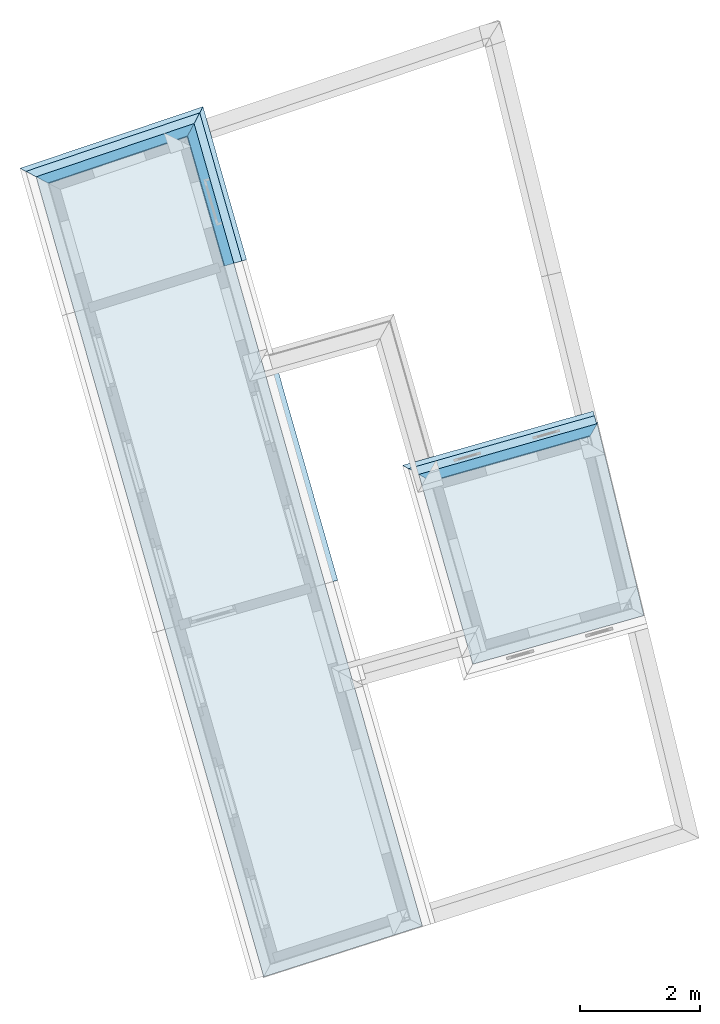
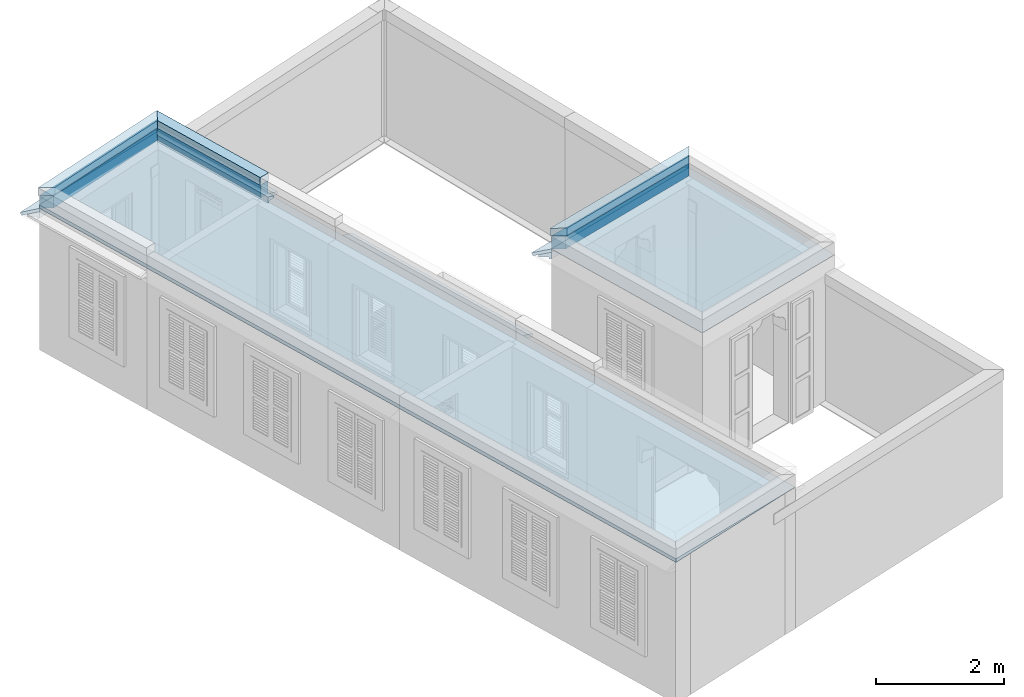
# One storey, part 13 of 13: 14 roofs.
"""IFC4 building model written with IfcOpenShell, lengths in metres."""

import ifcopenshell
import ifcopenshell.guid

model = None  # the IFC model being written
_history = None  # IfcOwnerHistory: only IFC2X3 demands one
_inside = {}  # id of a spatial element -> (the spatial element, [elements in it])
_under = {}  # id of a project, library or spatial element -> (it, [spatial elements below it])
_declared = {}  # id of a project -> (the project, [libraries it declares])
_typed = {}  # id of a type object -> (the type object, [elements of that type])
_made_of = {}  # id of a material, layer set ... -> (it, [elements and type objects made of it])


def new_model(schema):
    """Start an empty IFC model of exactly this schema.

    Asked for "IFC4X3", IfcOpenShell would pick the latest addendum, in which some entities
    have other attributes; the version numbers below select the first issue.
    IFC2X3 requires an IfcOwnerHistory on every rooted entity: one is made here for all.
    """
    global model, _history
    if schema == "IFC4X3":
        model = ifcopenshell.file(schema_version=(4, 3, 0, 0))
    else:
        model = ifcopenshell.file(schema=schema)
    _inside.clear()
    _under.clear()
    _declared.clear()
    _typed.clear()
    _made_of.clear()
    _history = None
    if model.schema == "IFC2X3":
        org = make("IfcOrganization", Name="unknown")
        user = make(
            "IfcPersonAndOrganization",
            ThePerson=make("IfcPerson", FamilyName="unknown"),
            TheOrganization=org,
        )
        app = make(
            "IfcApplication",
            ApplicationDeveloper=org,
            Version="unknown",
            ApplicationFullName="unknown",
            ApplicationIdentifier="unknown",
        )
        _history = make(
            "IfcOwnerHistory",
            OwningUser=user,
            OwningApplication=app,
            ChangeAction="ADDED",
            CreationDate=0,
        )
    return model


def make(cls, **values):
    """One entity of the class cls with the attributes given. An attribute that is None is left unset."""
    return model.create_entity(
        cls, **{name: value for name, value in values.items() if value is not None}
    )


def rooted(cls, **values):
    """An entity with a GlobalId (a new one), such as an element, a storey or a relation."""
    return make(cls, GlobalId=ifcopenshell.guid.new(), OwnerHistory=_history, **values)


def si_unit(unit_type, name, prefix=None):
    """IfcSIUnit, for example si_unit("LENGTHUNIT", "METRE", prefix="MILLI")."""
    return make("IfcSIUnit", UnitType=unit_type, Prefix=prefix, Name=name)


def assignment(units):
    """IfcUnitAssignment: the units of a project."""
    return None if units is None else make("IfcUnitAssignment", Units=units)


def point(xyz):
    """IfcCartesianPoint."""
    return None if xyz is None else make("IfcCartesianPoint", Coordinates=xyz)


def direction(xyz):
    """IfcDirection."""
    return None if xyz is None else make("IfcDirection", DirectionRatios=xyz)


def frame(location, z_axis=None, x_axis=None):
    """IfcAxis2Placement3D, a coordinate frame: its origin and axes. An axis left out is left unset."""
    return make(
        "IfcAxis2Placement3D",
        Location=point(location),
        Axis=direction(z_axis),
        RefDirection=direction(x_axis),
    )


def origin():
    """The frame at (0, 0, 0) with its axes left unset."""
    return frame((0.0, 0.0, 0.0))


def origin_with_axes():
    """The frame at (0, 0, 0) with the z axis (0, 0, 1) and the x axis (1, 0, 0) written out."""
    return frame((0.0, 0.0, 0.0), z_axis=(0.0, 0.0, 1.0), x_axis=(1.0, 0.0, 0.0))


def place(relative_to, where):
    """IfcLocalPlacement: puts the frame where relative to a parent placement (None: the world)."""
    return make(
        "IfcLocalPlacement", PlacementRelTo=relative_to, RelativePlacement=where
    )


def context(
    kind, dimensions, precision=None, world=None, true_north=None, identifier=None
):
    """IfcGeometricRepresentationContext, for example the 3D "Model" context."""
    return make(
        "IfcGeometricRepresentationContext",
        ContextIdentifier=identifier,
        ContextType=kind,
        CoordinateSpaceDimension=dimensions,
        Precision=precision,
        WorldCoordinateSystem=world,
        TrueNorth=true_north,
    )


def subcontext(parent, identifier, kind, view, scale=None):
    """IfcGeometricRepresentationSubContext, for example "Body" below "Model"."""
    return make(
        "IfcGeometricRepresentationSubContext",
        ContextIdentifier=identifier,
        ContextType=kind,
        ParentContext=parent,
        TargetScale=scale,
        TargetView=view,
    )


def project(units=None, contexts=None):
    """IfcProject with its units and contexts."""
    return rooted(
        "IfcProject",
        Name="project",
        RepresentationContexts=contexts,
        UnitsInContext=assignment(units),
    )


def spatial(cls, under=None, at=None, **own):
    """A site, building, storey or space (cls), placed at a placement, below another one or the project."""
    s = rooted(cls, ObjectPlacement=at, **own)
    if under is not None:
        _under.setdefault(under.id(), (under, []))[1].append(s)
    return s


def polyline(points):
    """IfcPolyline through the points."""
    return make("IfcPolyline", Points=[point(p) for p in points])


def outline(outer, holes=None, kind="AREA"):
    """IfcArbitraryClosedProfileDef: a profile drawn as a closed curve; with holes, ...WithVoids."""
    if holes is None:
        return make("IfcArbitraryClosedProfileDef", ProfileType=kind, OuterCurve=outer)
    return make(
        "IfcArbitraryProfileDefWithVoids",
        ProfileType=kind,
        OuterCurve=outer,
        InnerCurves=holes,
    )


def extrude(swept, where, along, depth):
    """IfcExtrudedAreaSolid: the profile swept, set in the frame where, extruded along a direction by depth."""
    return make(
        "IfcExtrudedAreaSolid",
        SweptArea=swept,
        Position=where,
        ExtrudedDirection=direction(along),
        Depth=depth,
    )


def boolean(op, a, b):
    """IfcBooleanResult of two solids."""
    return make("IfcBooleanResult", Operator=op, FirstOperand=a, SecondOperand=b)


def clip(a, b, op="DIFFERENCE"):
    """IfcBooleanClippingResult: the solid a cut by the half space b."""
    return make(
        "IfcBooleanClippingResult", Operator=op, FirstOperand=a, SecondOperand=b
    )


def halfspace(plane, agree):
    """IfcHalfSpaceSolid: all space on one side of the plane z = 0 of the frame plane."""
    return make(
        "IfcHalfSpaceSolid",
        BaseSurface=make("IfcPlane", Position=plane),
        AgreementFlag=agree,
    )


def faces_of(points, faces, orient=None, outer=None):
    """IfcFace entities. A face is a list of loops; a loop is a list of indices into points, from 0.

    orient and outer hold one flag for each loop. By default every Orientation is true, the
    first loop of a face is its IfcFaceOuterBound and the others are IfcFaceBound.
    """
    made = []
    for i, loops in enumerate(faces):
        bounds = []
        for j, loop in enumerate(loops):
            is_outer = j == 0 if outer is None else outer[i][j]
            bounds.append(
                make(
                    "IfcFaceOuterBound" if is_outer else "IfcFaceBound",
                    Bound=make("IfcPolyLoop", Polygon=[points[k] for k in loop]),
                    Orientation=True if orient is None else orient[i][j],
                )
            )
        made.append(make("IfcFace", Bounds=bounds))
    return made


def faceted_brep(points, faces, orient=None, outer=None, voids=None):
    """IfcFacetedBrep: a solid bounded by flat faces; with voids (closed shells), ...WithVoids."""
    shared = [point(p) for p in points]
    hull = make("IfcClosedShell", CfsFaces=faces_of(shared, faces, orient, outer))
    if voids is None:
        return make("IfcFacetedBrep", Outer=hull)
    return make(
        "IfcFacetedBrepWithVoids",
        Outer=hull,
        Voids=[
            make(cls, CfsFaces=faces_of(shared, fs, o, b)) for cls, fs, o, b in voids
        ],
    )


def shape(context_of_items, identifier, shape_type, items):
    """IfcShapeRepresentation: the items that make up one representation, for example the "Body"."""
    return make(
        "IfcShapeRepresentation",
        ContextOfItems=context_of_items,
        RepresentationIdentifier=identifier,
        RepresentationType=shape_type,
        Items=items,
    )


def material_profile(
    of_material, cross_section, Name=None, Category=None, Priority=None
):
    """IfcMaterialProfile: a cross section and its material."""
    return make(
        "IfcMaterialProfile",
        Name=Name,
        Material=of_material,
        Profile=cross_section,
        Priority=Priority,
        Category=Category,
    )


def profile_set(profiles, Name=None, composite=None):
    """IfcMaterialProfileSet."""
    return make(
        "IfcMaterialProfileSet",
        Name=Name,
        MaterialProfiles=profiles,
        CompositeProfile=composite,
    )


def profile_usage(for_profile_set, cardinal=None, extent=None):
    """IfcMaterialProfileSetUsage: how a profile set lies along its element."""
    return make(
        "IfcMaterialProfileSetUsage",
        ForProfileSet=for_profile_set,
        CardinalPoint=cardinal,
        ReferenceExtent=extent,
    )


def made_of(thing, what):
    """Note that an element or type object is made of a material, layer set ...; save() writes the relation."""
    if what is not None:
        _made_of.setdefault(what.id(), (what, []))[1].append(thing)
    return thing


def type_object(cls, material=None, **own):
    """A type object (cls), such as IfcWallType, which elements share."""
    return made_of(rooted(cls, **own), material)


def element(
    cls,
    number,
    at=None,
    inside=None,
    cuts=None,
    type_object=None,
    material=None,
    context=None,
    identifier="Body",
    shape_type=None,
    held_by="IfcProductDefinitionShape",
    body=None,
    shapes=None,
    **own,
):
    """One element of the class cls, such as IfcWall. Its Tag is "e" and its number.

    at: its placement. inside: the storey or other place that contains it. cuts: it is an
    opening in that element (IfcRelVoidsElement). A single representation is given by context,
    identifier, shape_type and body (its items); several are given by shapes. held_by: the class
    of the entity that holds the representations. save() writes the other relations.
    """
    e = rooted(cls, Tag="e%d" % number, ObjectPlacement=at, **own)
    if body is not None:
        shapes = [shape(context, identifier, shape_type, body)]
    if shapes is not None:
        e.Representation = make(held_by, Representations=shapes)
    if inside is not None:
        _inside.setdefault(inside.id(), (inside, []))[1].append(e)
    if cuts is not None:
        rooted(
            "IfcRelVoidsElement", RelatingBuildingElement=cuts, RelatedOpeningElement=e
        )
    if type_object is not None:
        _typed.setdefault(type_object.id(), (type_object, []))[1].append(e)
    return made_of(e, material)


def aggregate(whole, parts):
    """IfcRelAggregates: a whole, such as a stair, and the parts it consists of."""
    return rooted("IfcRelAggregates", RelatingObject=whole, RelatedObjects=parts)


def save(model, path):
    """Write the relations noted so far, then the file.

    IfcRelAggregates (storeys below a building ...), IfcRelContainedInSpatialStructure (elements
    in a storey), IfcRelDefinesByType, IfcRelAssociatesMaterial and IfcRelDeclares: one each for
    every whole, place, type object, material and project.
    """
    for whole, parts in _under.values():
        aggregate(whole, parts)
    for where, things in _inside.values():
        rooted(
            "IfcRelContainedInSpatialStructure",
            RelatedElements=things,
            RelatingStructure=where,
        )
    for kind, things in _typed.values():
        rooted("IfcRelDefinesByType", RelatedObjects=things, RelatingType=kind)
    for what, things in _made_of.values():
        rooted("IfcRelAssociatesMaterial", RelatedObjects=things, RelatingMaterial=what)
    for by, libraries in _declared.values():
        rooted("IfcRelDeclares", RelatingContext=by, RelatedDefinitions=libraries)
    model.write(path)


model = new_model("IFC4")

# Units and contexts
model_context = context("Model", 3, world=origin_with_axes())
body_context = subcontext(model_context, "Body", "Model", "MODEL_VIEW")
ifc_project = project(units=[si_unit("PLANEANGLEUNIT", "RADIAN"), si_unit("MASSUNIT", "GRAM", prefix="KILO"), si_unit("FORCEUNIT", "NEWTON", prefix="KILO"), si_unit("LENGTHUNIT", "METRE"), si_unit("AREAUNIT", "SQUARE_METRE"), si_unit("VOLUMEUNIT", "CUBIC_METRE")], contexts=[model_context, model_context])

# Site, building, storey
site_placement = place(None, origin_with_axes())
site = spatial("IfcSite", under=ifc_project, at=site_placement, Name="Site plot-3", CompositionType="ELEMENT")
building_placement = place(None, origin_with_axes())
building = spatial("IfcBuilding", under=site, at=building_placement, Name="Building plot-3", CompositionType="ELEMENT")
storey_placement = place(None, frame((0.0, 0.0, 3.3), z_axis=(0.0, 0.0, 1.0), x_axis=(1.0, 0.0, 0.0)))
storey = spatial("IfcBuildingStorey", under=building, at=storey_placement, Name="plot-3 1", CompositionType="ELEMENT", Elevation=3.3)

# Roofs
ifc_material_profile_1 = material_profile(None, outline(polyline([(0.25, 0.0), (0.25, 0.245), (0.09, 0.245), (0.09, 0.0), (0.25, 0.0)])))
ifc_profile_set_1 = profile_set([ifc_material_profile_1])
ifc_profile_usage_1 = profile_usage(ifc_profile_set_1)
roof_type_1 = type_object("IfcRoofType", Name="roofline_0", PredefinedType="FREEFORM", material=ifc_profile_set_1)
roof_1_placement = place(storey_placement, frame((8.7502441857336, 29.7352607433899, 2.7), z_axis=(0.273606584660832, -0.961841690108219, 0.0), x_axis=(0.961841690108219, 0.273606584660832, 0.0)))
element("IfcRoof", 1, at=roof_1_placement, inside=storey, type_object=roof_type_1, material=ifc_profile_usage_1, Name="roofline_0", context=body_context, shape_type="Clipping", body=[
    clip(clip(extrude(outline(polyline([(0.25, 0.0), (0.25, 0.245), (0.09, 0.245), (0.09, 0.0), (0.25, 0.0)])), origin_with_axes(), (0.0, 0.0, 1.0), 4.16007949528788), halfspace(frame((0.0, 0.0, 3.16007949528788), z_axis=(-1.871297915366e-14, 0.0, -1.0), x_axis=(0.0, 1.0, 0.0)), True)), halfspace(frame((0.0, 0.0, 1.0), z_axis=(-0.72388005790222, 0.0, -0.689925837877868), x_axis=(0.0, 1.0, 0.0)), False)),
])
ifc_profile_usage_2 = profile_usage(ifc_profile_set_1)
roof_2_placement = place(storey_placement, frame((5.91626355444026, 27.7257575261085, 2.7), z_axis=(0.947598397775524, 0.319464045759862, 0.0), x_axis=(-0.319464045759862, 0.947598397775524, 0.0)))
element("IfcRoof", 2, at=roof_2_placement, inside=storey, type_object=roof_type_1, material=ifc_profile_usage_2, Name="roofline_0", context=body_context, shape_type="Clipping", body=[
    clip(clip(extrude(outline(polyline([(0.25, 0.0), (0.25, 0.245), (0.09, 0.245), (0.09, 0.0), (0.25, 0.0)])), origin_with_axes(), (0.0, 0.0, 1.0), 4.27943485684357), halfspace(frame((0.0, 0.0, 3.27943485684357), z_axis=(0.723880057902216, 0.0, -0.689925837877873), x_axis=(0.0, 1.0, 0.0)), True)), halfspace(frame((0.0, 0.0, 1.0), z_axis=(-0.68992583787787, 0.0, -0.723880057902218), x_axis=(0.0, 1.0, 0.0)), False)),
])
ifc_material_profile_2 = material_profile(None, outline(polyline([(0.265, 0.245), (0.265, 0.395), (0.075, 0.395), (0.075, 0.245), (0.265, 0.245)])))
ifc_profile_set_2 = profile_set([ifc_material_profile_2])
ifc_profile_usage_3 = profile_usage(ifc_profile_set_2)
roof_type_2 = type_object("IfcRoofType", Name="roofline_1", PredefinedType="FREEFORM", material=ifc_profile_set_2)
roof_3_placement = place(storey_placement, frame((8.7502441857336, 29.7352607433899, 2.7), z_axis=(0.273606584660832, -0.961841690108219, 0.0), x_axis=(0.961841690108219, 0.273606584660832, 0.0)))
element("IfcRoof", 3, at=roof_3_placement, inside=storey, type_object=roof_type_2, material=ifc_profile_usage_3, Name="roofline_1", context=body_context, shape_type="Clipping", body=[
    clip(clip(extrude(outline(polyline([(0.265, 0.245), (0.265, 0.395), (0.075, 0.395), (0.075, 0.245), (0.265, 0.245)])), origin_with_axes(), (0.0, 0.0, 1.0), 4.16007949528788), halfspace(frame((0.0, 0.0, 3.16007949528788), z_axis=(-1.871297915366e-14, 0.0, -1.0), x_axis=(0.0, 1.0, 0.0)), True)), halfspace(frame((0.0, 0.0, 1.0), z_axis=(-0.72388005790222, 0.0, -0.689925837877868), x_axis=(0.0, 1.0, 0.0)), False)),
])
ifc_profile_usage_4 = profile_usage(ifc_profile_set_2)
roof_4_placement = place(storey_placement, frame((5.91626355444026, 27.7257575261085, 2.7), z_axis=(0.947598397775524, 0.319464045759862, 0.0), x_axis=(-0.319464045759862, 0.947598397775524, 0.0)))
element("IfcRoof", 4, at=roof_4_placement, inside=storey, type_object=roof_type_2, material=ifc_profile_usage_4, Name="roofline_1", context=body_context, shape_type="Clipping", body=[
    clip(clip(extrude(outline(polyline([(0.265, 0.245), (0.265, 0.395), (0.075, 0.395), (0.075, 0.245), (0.265, 0.245)])), origin_with_axes(), (0.0, 0.0, 1.0), 4.27943485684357), halfspace(frame((0.0, 0.0, 3.27943485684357), z_axis=(0.723880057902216, 0.0, -0.689925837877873), x_axis=(0.0, 1.0, 0.0)), True)), halfspace(frame((0.0, 0.0, 1.0), z_axis=(-0.68992583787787, 0.0, -0.723880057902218), x_axis=(0.0, 1.0, 0.0)), False)),
])
ifc_material_profile_3 = material_profile(None, outline(polyline([(0.25, 0.0), (0.25, 0.245), (0.09, 0.245), (0.09, 0.0), (0.25, 0.0)])))
ifc_profile_set_3 = profile_set([ifc_material_profile_3])
ifc_profile_usage_5 = profile_usage(ifc_profile_set_3)
roof_type_3 = type_object("IfcRoofType", Name="roofline_0", PredefinedType="FREEFORM", material=ifc_profile_set_3)
roof_5_placement = place(storey_placement, frame((12.2864732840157, 22.796996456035, 2.7), z_axis=(0.961841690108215, 0.273606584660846, 0.0), x_axis=(-0.273606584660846, 0.961841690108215, 0.0)))
element("IfcRoof", 5, at=roof_5_placement, inside=storey, type_object=roof_type_3, material=ifc_profile_usage_5, Name="roofline_0", context=body_context, shape_type="Clipping", body=[
    clip(clip(extrude(outline(polyline([(0.25, 0.0), (0.25, 0.245), (0.09, 0.245), (0.09, 0.0), (0.25, 0.0)])), origin_with_axes(), (0.0, 0.0, 1.0), 4.58528096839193), halfspace(frame((0.0, 0.0, 3.58528096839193), z_axis=(0.720505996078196, 0.0, -0.693448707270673), x_axis=(0.0, 1.0, 0.0)), True)), halfspace(frame((0.0, 0.0, 1.0), z_axis=(-0.707106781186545, 0.0, -0.70710678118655), x_axis=(0.0, 1.0, 0.0)), False)),
])
ifc_material_profile_4 = material_profile(None, outline(polyline([(0.265, 0.245), (0.265, 0.395), (0.075, 0.395), (0.075, 0.245), (0.265, 0.245)])))
ifc_profile_set_4 = profile_set([ifc_material_profile_4])
ifc_profile_usage_6 = profile_usage(ifc_profile_set_4)
roof_type_4 = type_object("IfcRoofType", Name="roofline_1", PredefinedType="FREEFORM", material=ifc_profile_set_4)
roof_6_placement = place(storey_placement, frame((12.2864732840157, 22.796996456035, 2.7), z_axis=(0.961841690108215, 0.273606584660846, 0.0), x_axis=(-0.273606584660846, 0.961841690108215, 0.0)))
element("IfcRoof", 6, at=roof_6_placement, inside=storey, type_object=roof_type_4, material=ifc_profile_usage_6, Name="roofline_1", context=body_context, shape_type="Clipping", body=[
    clip(clip(extrude(outline(polyline([(0.265, 0.245), (0.265, 0.395), (0.075, 0.395), (0.075, 0.245), (0.265, 0.245)])), origin_with_axes(), (0.0, 0.0, 1.0), 4.58528096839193), halfspace(frame((0.0, 0.0, 3.58528096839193), z_axis=(0.720505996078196, 0.0, -0.693448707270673), x_axis=(0.0, 1.0, 0.0)), True)), halfspace(frame((0.0, 0.0, 1.0), z_axis=(-0.707106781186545, 0.0, -0.70710678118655), x_axis=(0.0, 1.0, 0.0)), False)),
])
ifc_material_profile_5 = material_profile(None, outline(polyline([(0.25, -0.19), (0.275, -0.19), (0.275, -0.15), (0.39, -0.15), (0.39, -0.107509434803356), (0.25, -0.0629639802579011), (0.25, -0.19)])))
ifc_profile_set_5 = profile_set([ifc_material_profile_5])
ifc_profile_usage_7 = profile_usage(ifc_profile_set_5)
roof_type_5 = type_object("IfcRoofType", Name="eaves_0", PredefinedType="FREEFORM", material=ifc_profile_set_5)
roof_7_placement = place(storey_placement, frame((12.2864732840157, 22.796996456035, 2.7), z_axis=(0.961841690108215, 0.273606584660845, 0.0), x_axis=(-0.273606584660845, 0.961841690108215, 0.0)))
element("IfcRoof", 7, at=roof_7_placement, inside=storey, type_object=roof_type_5, material=ifc_profile_usage_7, Name="eaves_0", context=body_context, shape_type="Clipping", body=[
    clip(clip(extrude(outline(polyline([(0.25, -0.19), (0.275, -0.19), (0.275, -0.15), (0.39, -0.15), (0.39, -0.107509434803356), (0.25, -0.0629639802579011), (0.25, -0.19)])), origin_with_axes(), (0.0, 0.0, 1.0), 4.83528096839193), halfspace(frame((0.0, 0.0, 3.83528096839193), z_axis=(-6.12323399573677e-17, 0.0, -1.0), x_axis=(0.0, 1.0, 0.0)), True)), halfspace(frame((0.0, 0.0, 1.0), z_axis=(-0.707106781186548, 0.0, -0.707106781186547), x_axis=(0.0, 1.0, 0.0)), False)),
])
ifc_material_profile_6 = material_profile(None, outline(polyline([(0.25, -0.0629639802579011), (0.451807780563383, -0.127175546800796), (0.47, -0.07), (0.25, 0.0), (0.25, -0.0629639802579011)])))
ifc_profile_set_6 = profile_set([ifc_material_profile_6])
ifc_profile_usage_8 = profile_usage(ifc_profile_set_6)
roof_type_6 = type_object("IfcRoofType", Name="eaves_1", PredefinedType="FREEFORM", material=ifc_profile_set_6)
roof_8_placement = place(storey_placement, frame((12.2864732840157, 22.796996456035, 2.7), z_axis=(0.961841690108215, 0.273606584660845, 0.0), x_axis=(-0.273606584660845, 0.961841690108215, 0.0)))
element("IfcRoof", 8, at=roof_8_placement, inside=storey, type_object=roof_type_6, material=ifc_profile_usage_8, Name="eaves_1", context=body_context, shape_type="Clipping", body=[
    clip(clip(extrude(outline(polyline([(0.25, -0.0629639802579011), (0.451807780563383, -0.127175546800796), (0.47, -0.07), (0.25, 0.0), (0.25, -0.0629639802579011)])), origin_with_axes(), (0.0, 0.0, 1.0), 4.83528096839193), halfspace(frame((0.0, 0.0, 3.83528096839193), z_axis=(-6.12323399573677e-17, 0.0, -1.0), x_axis=(0.0, 1.0, 0.0)), True)), halfspace(frame((0.0, 0.0, 1.0), z_axis=(-0.707106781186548, 0.0, -0.707106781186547), x_axis=(0.0, 1.0, 0.0)), False)),
])
ifc_material_profile_7 = material_profile(None, outline(polyline([(0.25, -0.19), (0.275, -0.19), (0.275, -0.15), (0.39, -0.15), (0.39, -0.107509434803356), (0.25, -0.0629639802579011), (0.25, -0.19)])))
ifc_profile_set_7 = profile_set([ifc_material_profile_7])
ifc_profile_usage_9 = profile_usage(ifc_profile_set_7)
roof_type_7 = type_object("IfcRoofType", Name="eaves_0", PredefinedType="FREEFORM", material=ifc_profile_set_7)
roof_9_placement = place(storey_placement, frame((8.7502441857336, 29.7352607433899, 2.7), z_axis=(0.273606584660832, -0.961841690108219, 0.0), x_axis=(0.961841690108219, 0.273606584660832, 0.0)))
element("IfcRoof", 9, at=roof_9_placement, inside=storey, type_object=roof_type_7, material=ifc_profile_usage_9, Name="eaves_0", context=body_context, shape_type="Clipping", body=[
    clip(clip(extrude(outline(polyline([(0.25, -0.19), (0.275, -0.19), (0.275, -0.15), (0.39, -0.15), (0.39, -0.107509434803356), (0.25, -0.0629639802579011), (0.25, -0.19)])), origin_with_axes(), (0.0, 0.0, 1.0), 4.16007949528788), halfspace(frame((0.0, 0.0, 3.16007949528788), z_axis=(-1.871297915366e-14, 0.0, -1.0), x_axis=(0.0, 1.0, 0.0)), True)), halfspace(frame((0.0, 0.0, 1.0), z_axis=(-0.72388005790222, 0.0, -0.689925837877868), x_axis=(0.0, 1.0, 0.0)), False)),
])
ifc_profile_usage_10 = profile_usage(ifc_profile_set_7)
roof_10_placement = place(storey_placement, frame((5.91626355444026, 27.7257575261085, 2.7), z_axis=(0.947598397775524, 0.319464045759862, 0.0), x_axis=(-0.319464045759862, 0.947598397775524, 0.0)))
element("IfcRoof", 10, at=roof_10_placement, inside=storey, type_object=roof_type_7, material=ifc_profile_usage_10, Name="eaves_0", context=body_context, shape_type="Clipping", body=[
    clip(clip(extrude(outline(polyline([(0.25, -0.19), (0.275, -0.19), (0.275, -0.15), (0.39, -0.15), (0.39, -0.107509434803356), (0.25, -0.0629639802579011), (0.25, -0.19)])), origin_with_axes(), (0.0, 0.0, 1.0), 4.27943485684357), halfspace(frame((0.0, 0.0, 3.27943485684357), z_axis=(0.723880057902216, 0.0, -0.689925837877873), x_axis=(0.0, 1.0, 0.0)), True)), halfspace(frame((0.0, 0.0, 1.0), z_axis=(-0.68992583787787, 0.0, -0.723880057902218), x_axis=(0.0, 1.0, 0.0)), False)),
])
ifc_material_profile_8 = material_profile(None, outline(polyline([(0.25, -0.0629639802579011), (0.451807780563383, -0.127175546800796), (0.47, -0.07), (0.25, 0.0), (0.25, -0.0629639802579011)])))
ifc_profile_set_8 = profile_set([ifc_material_profile_8])
ifc_profile_usage_11 = profile_usage(ifc_profile_set_8)
roof_type_8 = type_object("IfcRoofType", Name="eaves_1", PredefinedType="FREEFORM", material=ifc_profile_set_8)
roof_11_placement = place(storey_placement, frame((9.78591277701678, 26.0944520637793, 2.7), z_axis=(0.273606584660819, -0.961841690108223, 0.0), x_axis=(0.961841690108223, 0.273606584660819, 0.0)))
element("IfcRoof", 11, at=roof_11_placement, inside=storey, type_object=roof_type_8, material=ifc_profile_usage_11, Name="eaves_1", context=body_context, shape_type="Clipping", body=[
    clip(clip(extrude(outline(polyline([(0.25, -0.0629639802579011), (0.451807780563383, -0.127175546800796), (0.47, -0.07), (0.25, 0.0), (0.25, -0.0629639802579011)])), origin_with_axes(), (0.0, 0.0, 1.0), 5.93376585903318), halfspace(frame((0.0, 0.0, 4.93376585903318), z_axis=(-5.51282943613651e-14, 0.0, -1.0), x_axis=(0.0, 1.0, 0.0)), True)), halfspace(frame((0.0, 0.0, 1.0), z_axis=(1.60812264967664e-16, 0.0, -1.0), x_axis=(0.0, 1.0, 0.0)), False)),
])
ifc_profile_usage_12 = profile_usage(ifc_profile_set_8)
roof_12_placement = place(storey_placement, frame((8.7502441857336, 29.7352607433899, 2.7), z_axis=(0.273606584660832, -0.961841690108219, 0.0), x_axis=(0.961841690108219, 0.273606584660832, 0.0)))
element("IfcRoof", 12, at=roof_12_placement, inside=storey, type_object=roof_type_8, material=ifc_profile_usage_12, Name="eaves_1", context=body_context, shape_type="Clipping", body=[
    clip(clip(extrude(outline(polyline([(0.25, -0.0629639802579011), (0.451807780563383, -0.127175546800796), (0.47, -0.07), (0.25, 0.0), (0.25, -0.0629639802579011)])), origin_with_axes(), (0.0, 0.0, 1.0), 4.16007949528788), halfspace(frame((0.0, 0.0, 3.16007949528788), z_axis=(-1.871297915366e-14, 0.0, -1.0), x_axis=(0.0, 1.0, 0.0)), True)), halfspace(frame((0.0, 0.0, 1.0), z_axis=(-0.72388005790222, 0.0, -0.689925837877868), x_axis=(0.0, 1.0, 0.0)), False)),
])
ifc_profile_usage_13 = profile_usage(ifc_profile_set_8)
roof_13_placement = place(storey_placement, frame((5.91626355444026, 27.7257575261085, 2.7), z_axis=(0.947598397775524, 0.319464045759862, 0.0), x_axis=(-0.319464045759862, 0.947598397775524, 0.0)))
element("IfcRoof", 13, at=roof_13_placement, inside=storey, type_object=roof_type_8, material=ifc_profile_usage_13, Name="eaves_1", context=body_context, shape_type="Clipping", body=[
    clip(clip(extrude(outline(polyline([(0.25, -0.0629639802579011), (0.451807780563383, -0.127175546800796), (0.47, -0.07), (0.25, 0.0), (0.25, -0.0629639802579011)])), origin_with_axes(), (0.0, 0.0, 1.0), 4.27943485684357), halfspace(frame((0.0, 0.0, 3.27943485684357), z_axis=(0.723880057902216, 0.0, -0.689925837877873), x_axis=(0.0, 1.0, 0.0)), True)), halfspace(frame((0.0, 0.0, 1.0), z_axis=(-0.68992583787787, 0.0, -0.723880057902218), x_axis=(0.0, 1.0, 0.0)), False)),
])
roof_14_placement = place(building_placement, origin())
element("IfcRoof", 14, at=roof_14_placement, inside=storey, Name="Roof", PredefinedType="FREEFORM", context=body_context, shape_type="CSG", body=[
    boolean("UNION", faceted_brep([(12.999372, 15.711519, 6.0), (9.192543, 29.094115, 6.0), (6.558208, 28.206001, 6.06942), (10.353764, 14.863033, 6.06942), (10.353764, 14.863033, 6.0), (6.558208, 28.206001, 6.0)], [[[0, 1, 2, 3]], [[4, 5, 1, 0]], [[3, 4, 0]], [[2, 1, 5]], [[2, 5, 4, 3]]]), faceted_brep([(13.839895, 20.07723, 6.0), (16.695638, 20.889578, 6.0), (16.306013, 22.489531, 6.041138), (14.97239, 22.110167, 6.041138), (15.916387, 24.089484, 6.0), (12.939453, 23.242662, 6.0)], [[[0, 1, 2, 3]], [[4, 5, 3, 2]], [[5, 4, 1, 0]], [[5, 0, 3]], [[1, 4, 2]]])),
])

save(model, "model.ifc")
